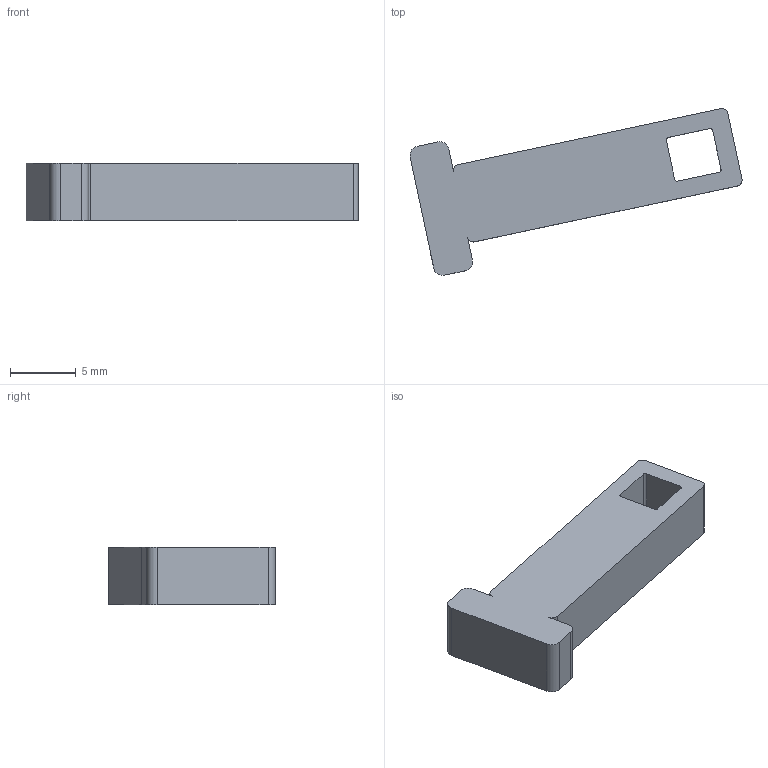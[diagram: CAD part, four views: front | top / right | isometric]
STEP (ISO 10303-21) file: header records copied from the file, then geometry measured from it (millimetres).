
FILE_DESCRIPTION(('Open CASCADE Model'),'2;1');
FILE_NAME('Open CASCADE Shape Model','2026-10-23T20:21:35',('Author'),( 'Open CASCADE'),'Open CASCADE STEP processor 7.8','Open CASCADE 7.8' ,'Unknown');
FILE_SCHEMA(('AUTOMOTIVE_DESIGN { 1 0 10303 214 1 1 1 1 }'));
Length unit declared in the file: millimetre
Products named in the file (1): Open CASCADE STEP translator 7.8 29
Bounding box: 25.22 x 12.66 x 4.4 mm (x, y, z)
Volume: 638 mm3; surface area: 651.2 mm2
Topology: 1 solids, 1 shells, 26 faces, 72 edges, 48 vertices
Faces by surface type: plane 14, cylinder 12
Entity records: 1814 total; most frequent: CARTESIAN_POINT 339, DIRECTION 286, LINE 168, VECTOR 168, ORIENTED_EDGE 144, PCURVE 144, DEFINITIONAL_REPRESENTATION 144, EDGE_CURVE 72
